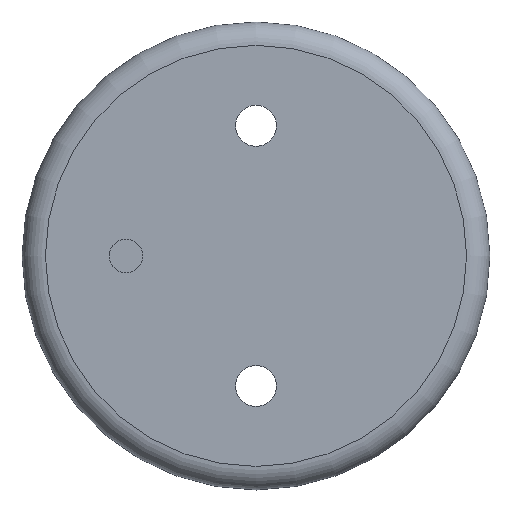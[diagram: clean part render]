
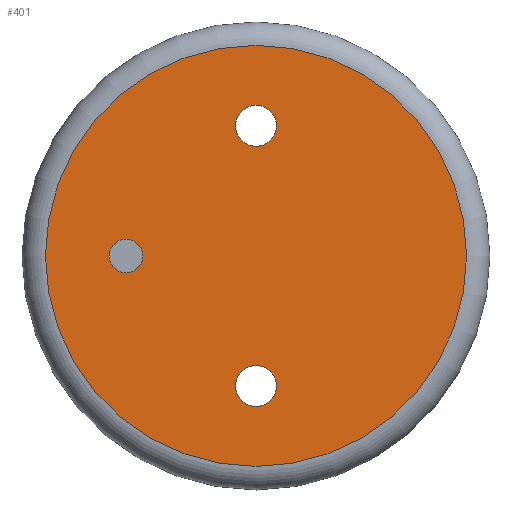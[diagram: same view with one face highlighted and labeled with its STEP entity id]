
A CAD part, top view. The second image highlights one B-rep face of the part: STEP entity #401.
In plain terms, the highlighted planar face has unit normal (0, 0, 1).
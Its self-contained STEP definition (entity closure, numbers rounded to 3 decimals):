
#157 = CYLINDRICAL_SURFACE('',#158,7.);
#158 = AXIS2_PLACEMENT_3D('',#159,#160,#161);
#159 = CARTESIAN_POINT('',(0.,-44.5,1.));
#160 = DIRECTION('',(0.,0.,-1.));
#161 = DIRECTION('',(-1.,0.,-0.));
#191 = CYLINDRICAL_SURFACE('',#192,7.);
#192 = AXIS2_PLACEMENT_3D('',#193,#194,#195);
#193 = CARTESIAN_POINT('',(0.,44.5,1.));
#194 = DIRECTION('',(0.,0.,-1.));
#195 = DIRECTION('',(-1.,0.,-0.));
#267 = VERTEX_POINT('',#268);
#268 = CARTESIAN_POINT('',(-7.,-44.5,0.));
#289 = EDGE_CURVE('',#267,#267,#290,.T.);
#290 = SURFACE_CURVE('',#291,(#296,#303),.PCURVE_S1.);
#291 = CIRCLE('',#292,7.);
#292 = AXIS2_PLACEMENT_3D('',#293,#294,#295);
#293 = CARTESIAN_POINT('',(0.,-44.5,0.));
#294 = DIRECTION('',(0.,0.,-1.));
#295 = DIRECTION('',(-1.,0.,-0.));
#296 = PCURVE('',#157,#297);
#297 = DEFINITIONAL_REPRESENTATION('',(#298),#302);
#298 = LINE('',#299,#300);
#299 = CARTESIAN_POINT('',(0.,1.));
#300 = VECTOR('',#301,1.);
#301 = DIRECTION('',(1.,0.));
#302 = ( GEOMETRIC_REPRESENTATION_CONTEXT(2) 
PARAMETRIC_REPRESENTATION_CONTEXT() REPRESENTATION_CONTEXT('2D SPACE',''
  ) );
#303 = PCURVE('',#304,#309);
#304 = PLANE('',#305);
#305 = AXIS2_PLACEMENT_3D('',#306,#307,#308);
#306 = CARTESIAN_POINT('',(0.,0.,0.));
#307 = DIRECTION('',(0.,0.,-1.));
#308 = DIRECTION('',(-1.,0.,-0.));
#309 = DEFINITIONAL_REPRESENTATION('',(#310),#314);
#310 = CIRCLE('',#311,7.);
#311 = AXIS2_PLACEMENT_2D('',#312,#313);
#312 = CARTESIAN_POINT('',(0.,-44.5));
#313 = DIRECTION('',(1.,0.));
#314 = ( GEOMETRIC_REPRESENTATION_CONTEXT(2) 
PARAMETRIC_REPRESENTATION_CONTEXT() REPRESENTATION_CONTEXT('2D SPACE',''
  ) );
#322 = VERTEX_POINT('',#323);
#323 = CARTESIAN_POINT('',(-7.,44.5,0.));
#344 = EDGE_CURVE('',#322,#322,#345,.T.);
#345 = SURFACE_CURVE('',#346,(#351,#358),.PCURVE_S1.);
#346 = CIRCLE('',#347,7.);
#347 = AXIS2_PLACEMENT_3D('',#348,#349,#350);
#348 = CARTESIAN_POINT('',(0.,44.5,0.));
#349 = DIRECTION('',(0.,0.,-1.));
#350 = DIRECTION('',(-1.,0.,-0.));
#351 = PCURVE('',#191,#352);
#352 = DEFINITIONAL_REPRESENTATION('',(#353),#357);
#353 = LINE('',#354,#355);
#354 = CARTESIAN_POINT('',(0.,1.));
#355 = VECTOR('',#356,1.);
#356 = DIRECTION('',(1.,0.));
#357 = ( GEOMETRIC_REPRESENTATION_CONTEXT(2) 
PARAMETRIC_REPRESENTATION_CONTEXT() REPRESENTATION_CONTEXT('2D SPACE',''
  ) );
#358 = PCURVE('',#304,#359);
#359 = DEFINITIONAL_REPRESENTATION('',(#360),#364);
#360 = CIRCLE('',#361,7.);
#361 = AXIS2_PLACEMENT_2D('',#362,#363);
#362 = CARTESIAN_POINT('',(0.,44.5));
#363 = DIRECTION('',(1.,0.));
#364 = ( GEOMETRIC_REPRESENTATION_CONTEXT(2) 
PARAMETRIC_REPRESENTATION_CONTEXT() REPRESENTATION_CONTEXT('2D SPACE',''
  ) );
#401 = ADVANCED_FACE('',(#402,#433,#436,#467),#304,.F.);
#402 = FACE_BOUND('',#403,.F.);
#403 = EDGE_LOOP('',(#404));
#404 = ORIENTED_EDGE('',*,*,#405,.T.);
#405 = EDGE_CURVE('',#406,#406,#408,.T.);
#406 = VERTEX_POINT('',#407);
#407 = CARTESIAN_POINT('',(-72.,0.,0.));
#408 = SURFACE_CURVE('',#409,(#414,#421),.PCURVE_S1.);
#409 = CIRCLE('',#410,72.);
#410 = AXIS2_PLACEMENT_3D('',#411,#412,#413);
#411 = CARTESIAN_POINT('',(0.,0.,0.));
#412 = DIRECTION('',(0.,0.,-1.));
#413 = DIRECTION('',(-1.,0.,0.));
#414 = PCURVE('',#304,#415);
#415 = DEFINITIONAL_REPRESENTATION('',(#416),#420);
#416 = CIRCLE('',#417,72.);
#417 = AXIS2_PLACEMENT_2D('',#418,#419);
#418 = CARTESIAN_POINT('',(0.,0.));
#419 = DIRECTION('',(1.,0.));
#420 = ( GEOMETRIC_REPRESENTATION_CONTEXT(2) 
PARAMETRIC_REPRESENTATION_CONTEXT() REPRESENTATION_CONTEXT('2D SPACE',''
  ) );
#421 = PCURVE('',#422,#427);
#422 = TOROIDAL_SURFACE('',#423,72.,8.);
#423 = AXIS2_PLACEMENT_3D('',#424,#425,#426);
#424 = CARTESIAN_POINT('',(0.,0.,-8.));
#425 = DIRECTION('',(-0.,-0.,1.));
#426 = DIRECTION('',(-1.,0.,0.));
#427 = DEFINITIONAL_REPRESENTATION('',(#428),#432);
#428 = LINE('',#429,#430);
#429 = CARTESIAN_POINT('',(-0.,1.571));
#430 = VECTOR('',#431,1.);
#431 = DIRECTION('',(-1.,0.));
#432 = ( GEOMETRIC_REPRESENTATION_CONTEXT(2) 
PARAMETRIC_REPRESENTATION_CONTEXT() REPRESENTATION_CONTEXT('2D SPACE',''
  ) );
#433 = FACE_BOUND('',#434,.F.);
#434 = EDGE_LOOP('',(#435));
#435 = ORIENTED_EDGE('',*,*,#289,.F.);
#436 = FACE_BOUND('',#437,.F.);
#437 = EDGE_LOOP('',(#438));
#438 = ORIENTED_EDGE('',*,*,#439,.F.);
#439 = EDGE_CURVE('',#440,#440,#442,.T.);
#440 = VERTEX_POINT('',#441);
#441 = CARTESIAN_POINT('',(-50.25,0.,0.));
#442 = SURFACE_CURVE('',#443,(#448,#455),.PCURVE_S1.);
#443 = CIRCLE('',#444,5.75);
#444 = AXIS2_PLACEMENT_3D('',#445,#446,#447);
#445 = CARTESIAN_POINT('',(-44.5,0.,0.));
#446 = DIRECTION('',(0.,0.,-1.));
#447 = DIRECTION('',(-1.,0.,-0.));
#448 = PCURVE('',#304,#449);
#449 = DEFINITIONAL_REPRESENTATION('',(#450),#454);
#450 = CIRCLE('',#451,5.75);
#451 = AXIS2_PLACEMENT_2D('',#452,#453);
#452 = CARTESIAN_POINT('',(44.5,0.));
#453 = DIRECTION('',(1.,0.));
#454 = ( GEOMETRIC_REPRESENTATION_CONTEXT(2) 
PARAMETRIC_REPRESENTATION_CONTEXT() REPRESENTATION_CONTEXT('2D SPACE',''
  ) );
#455 = PCURVE('',#456,#461);
#456 = CYLINDRICAL_SURFACE('',#457,5.75);
#457 = AXIS2_PLACEMENT_3D('',#458,#459,#460);
#458 = CARTESIAN_POINT('',(-44.5,0.,1.));
#459 = DIRECTION('',(0.,0.,-1.));
#460 = DIRECTION('',(-1.,0.,-0.));
#461 = DEFINITIONAL_REPRESENTATION('',(#462),#466);
#462 = LINE('',#463,#464);
#463 = CARTESIAN_POINT('',(0.,1.));
#464 = VECTOR('',#465,1.);
#465 = DIRECTION('',(1.,0.));
#466 = ( GEOMETRIC_REPRESENTATION_CONTEXT(2) 
PARAMETRIC_REPRESENTATION_CONTEXT() REPRESENTATION_CONTEXT('2D SPACE',''
  ) );
#467 = FACE_BOUND('',#468,.F.);
#468 = EDGE_LOOP('',(#469));
#469 = ORIENTED_EDGE('',*,*,#344,.F.);
